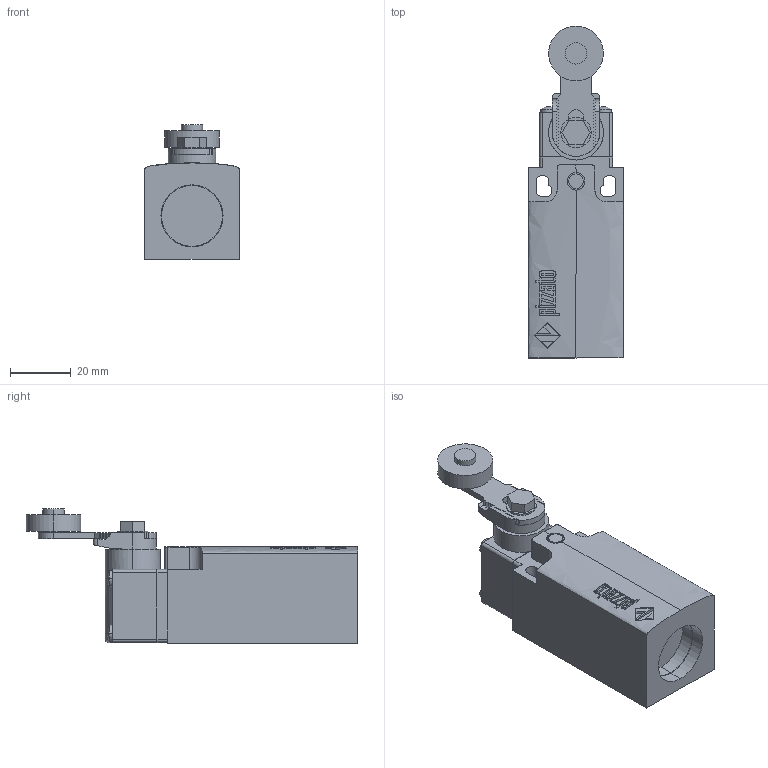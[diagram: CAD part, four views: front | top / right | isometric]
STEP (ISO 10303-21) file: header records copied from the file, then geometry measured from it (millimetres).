
FILE_DESCRIPTION (( 'STEP AP203' ), '1' );
FILE_NAME ('ZF_STEP_FM_x31.STEP', '2024-01-09T16:34:09', ( '' ), ( '' ), 'SwSTEP 2.0', 'SolidWorks 2020', '' );
FILE_SCHEMA (( 'CONFIG_CONTROL_DESIGN' ));
Length unit declared in the file: millimetre
Products named in the file (10): Pizzato_Supporto_leve_6325; ZF_STEP_VF_TE38; ZF_STEP_FM_x31; Pizzato_Supporto_TE38; ZF_STEP_VN_A00KB; Pizzato_vite; Pizzato_VN_A00KB_Default (R7); Pizzato_Custodia_FM_3dweb; Pizzato_rosetta_6606_Schiacciata
Assembly tree (9 placements, depth 3):
  ZF_STEP_FM_x31
    Pizzato_Custodia_FM_3dweb
      Pizzato_Custodia_FM_3dweb
    ZF_STEP_VF_TE38
      Pizzato_Supporto_TE38
    ZF_STEP_VN_A00KB
      Pizzato_Supporto_leve_6325
      Pizzato_VN_A00KB_Default (R7)
      Pizzato_rosetta_6606_Schiacciata
      Pizzato_vite
Bounding box: 31.2 x 109 x 44.1 mm (x, y, z)
Volume: 71335.4 mm3; surface area: 19124.6 mm2
Topology: 6 solids, 6 shells, 715 faces, 2016 edges, 1342 vertices
Faces by surface type: plane 430, cylinder 231, bspline 45, sphere 8, torus 1
Entity records: 24989 total; most frequent: CARTESIAN_POINT 5573, ORIENTED_EDGE 4032, DIRECTION 3615, EDGE_CURVE 2016, LINE 1355, VECTOR 1355, VERTEX_POINT 1342, AXIS2_PLACEMENT_3D 1130
